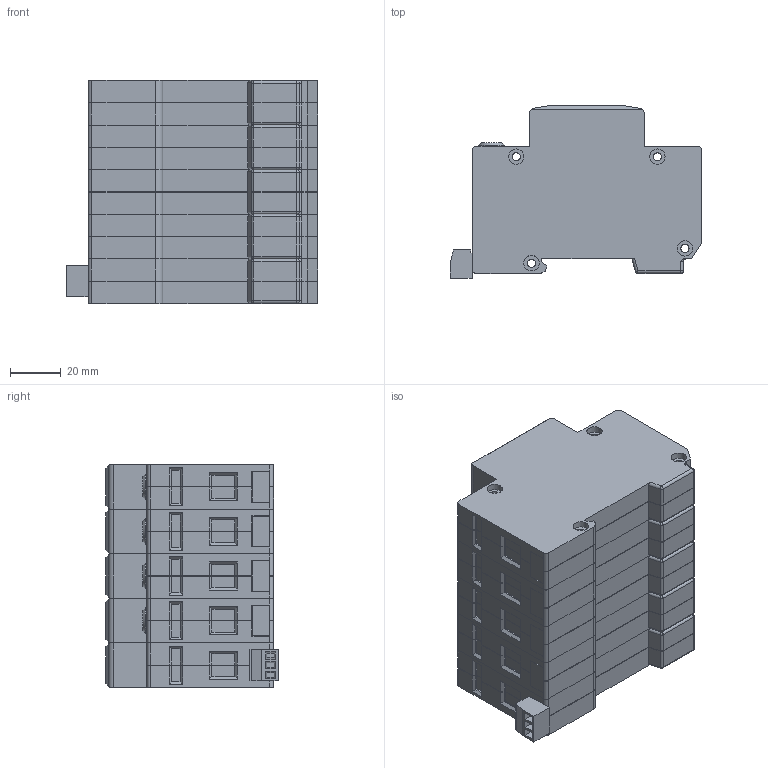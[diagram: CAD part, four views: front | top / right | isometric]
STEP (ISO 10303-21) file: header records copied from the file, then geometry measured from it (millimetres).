
FILE_DESCRIPTION(/* description */ (''),/* implementation_level */ '2;1');
FILE_NAME(/* name */ 'K:\PROJEKTY ROZPRACOVANÉ\MODELY DO KATALOGU\HSA, HLSA 24520, 10007\3D - STEP\H PV S.stp',/* time_stamp */ '2021-06-10T13:55:08+02:00',/* author */ ('miko'),/* organization */ (''),/* preprocessor_version */ 'ST-DEVELOPER v18.1',/* originating_system */ 'Autodesk Inventor 2022',/* authorisation */ '');
FILE_SCHEMA (('AUTOMOTIVE_DESIGN { 1 0 10303 214 3 1 1 }'));
Length unit declared in the file: millimetre
Products named in the file (12): H PV S; HLSA S; HLSA S_1; KONEKTOR DEGSON 15EDGK 3.81; KONEKTOR SAMEC; ISO 2009 - M1,6 x 2,5; KONEKTOR DEGSON 15EDGRC 3.81 (OBRÁCENÉ VÝV
ODY); HLSA (Z); HLSA (Z)_1; HGDT (Z); HGDT (Z)_1; DIN 7985 (H) - M5x6-H
Assembly tree (18 placements, depth 4):
  H PV S
    HLSA S
      HLSA S_1
      DIN 7985 (H) - M5x6-H  x2
      KONEKTOR DEGSON 15EDGK 3.81
        KONEKTOR SAMEC
        ISO 2009 - M1,6 x 2,5  x3
      KONEKTOR DEGSON 15EDGRC 3.81 (OBRÁCENÉ VÝV
ODY)
    HLSA (Z)  x3
      HLSA (Z)_1
      DIN 7985 (H) - M5x6-H
    HGDT (Z)
      HGDT (Z)_1
      DIN 7985 (H) - M5x6-H
Bounding box: 98.5 x 67.6 x 87.5 mm (x, y, z)
Volume: 423523.4 mm3; surface area: 91459.1 mm2
Topology: 16 solids, 16 shells, 1606 faces, 4265 edges, 2777 vertices
Faces by surface type: plane 1171, cylinder 269, cone 118, sphere 26, torus 22
Full cylindrical faces by diameter (mm): 0.968 x3, 1 x6, 1.171 x3, 1.6 x3, 1.9 x3, 2 x3, 2.5 x3, 3.2 x20, 4.6 x6, 5 x6, 6 x40, 10 x4
Entity records: 28998 total; most frequent: CARTESIAN_POINT 5097, ORIENTED_EDGE 4906, DIRECTION 4775, EDGE_CURVE 2453, LINE 1995, VECTOR 1995, VERTEX_POINT 1596, AXIS2_PLACEMENT_3D 1390
